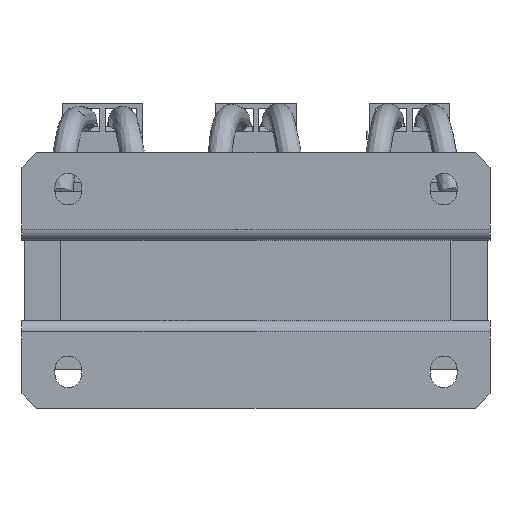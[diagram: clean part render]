
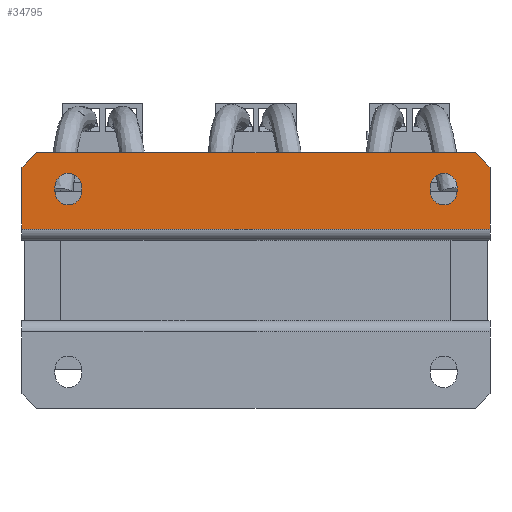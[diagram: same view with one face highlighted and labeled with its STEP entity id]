
A CAD part, front view. The second image highlights one B-rep face of the part: STEP entity #34795.
In plain terms, the highlighted planar face has unit normal (0, -1, 0).
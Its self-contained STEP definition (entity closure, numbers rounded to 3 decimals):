
#3847=LINE('',#59792,#7297);
#3848=LINE('',#59794,#7298);
#3849=LINE('',#59796,#7299);
#3850=LINE('',#59798,#7300);
#3851=LINE('',#59800,#7301);
#3852=LINE('',#59801,#7302);
#3853=LINE('',#59804,#7303);
#3854=LINE('',#59808,#7304);
#3855=LINE('',#59812,#7305);
#3856=LINE('',#59816,#7306);
#7297=VECTOR('',#46039,10.);
#7298=VECTOR('',#46040,10.);
#7299=VECTOR('',#46041,10.);
#7300=VECTOR('',#46042,10.);
#7301=VECTOR('',#46043,10.);
#7302=VECTOR('',#46044,10.);
#7303=VECTOR('',#46045,10.);
#7304=VECTOR('',#46048,10.);
#7305=VECTOR('',#46051,10.);
#7306=VECTOR('',#46054,10.);
#8843=PLANE('',#37463);
#9109=FACE_BOUND('',#12755,.T.);
#9110=FACE_BOUND('',#12756,.T.);
#10806=FACE_OUTER_BOUND('',#12754,.T.);
#12754=EDGE_LOOP('',(#30589,#30590,#30591,#30592,#30593,#30594));
#12755=EDGE_LOOP('',(#30595,#30596,#30597,#30598));
#12756=EDGE_LOOP('',(#30599,#30600,#30601,#30602));
#13736=CIRCLE('',#37464,2.75);
#13737=CIRCLE('',#37465,2.75);
#13738=CIRCLE('',#37466,2.75);
#13739=CIRCLE('',#37467,2.75);
#16772=VERTEX_POINT('',#59790);
#16773=VERTEX_POINT('',#59791);
#16774=VERTEX_POINT('',#59793);
#16775=VERTEX_POINT('',#59795);
#16776=VERTEX_POINT('',#59797);
#16777=VERTEX_POINT('',#59799);
#16778=VERTEX_POINT('',#59802);
#16779=VERTEX_POINT('',#59803);
#16780=VERTEX_POINT('',#59805);
#16781=VERTEX_POINT('',#59807);
#16782=VERTEX_POINT('',#59810);
#16783=VERTEX_POINT('',#59811);
#16784=VERTEX_POINT('',#59813);
#16785=VERTEX_POINT('',#59815);
#21427=EDGE_CURVE('',#16772,#16773,#3847,.T.);
#21428=EDGE_CURVE('',#16774,#16772,#3848,.T.);
#21429=EDGE_CURVE('',#16775,#16774,#3849,.T.);
#21430=EDGE_CURVE('',#16776,#16775,#3850,.T.);
#21431=EDGE_CURVE('',#16776,#16777,#3851,.T.);
#21432=EDGE_CURVE('',#16773,#16777,#3852,.T.);
#21433=EDGE_CURVE('',#16778,#16779,#3853,.T.);
#21434=EDGE_CURVE('',#16779,#16780,#13736,.T.);
#21435=EDGE_CURVE('',#16780,#16781,#3854,.T.);
#21436=EDGE_CURVE('',#16781,#16778,#13737,.T.);
#21437=EDGE_CURVE('',#16782,#16783,#3855,.T.);
#21438=EDGE_CURVE('',#16783,#16784,#13738,.T.);
#21439=EDGE_CURVE('',#16784,#16785,#3856,.T.);
#21440=EDGE_CURVE('',#16785,#16782,#13739,.T.);
#30589=ORIENTED_EDGE('',*,*,#21427,.F.);
#30590=ORIENTED_EDGE('',*,*,#21428,.F.);
#30591=ORIENTED_EDGE('',*,*,#21429,.F.);
#30592=ORIENTED_EDGE('',*,*,#21430,.F.);
#30593=ORIENTED_EDGE('',*,*,#21431,.T.);
#30594=ORIENTED_EDGE('',*,*,#21432,.F.);
#30595=ORIENTED_EDGE('',*,*,#21433,.T.);
#30596=ORIENTED_EDGE('',*,*,#21434,.T.);
#30597=ORIENTED_EDGE('',*,*,#21435,.T.);
#30598=ORIENTED_EDGE('',*,*,#21436,.T.);
#30599=ORIENTED_EDGE('',*,*,#21437,.T.);
#30600=ORIENTED_EDGE('',*,*,#21438,.T.);
#30601=ORIENTED_EDGE('',*,*,#21439,.T.);
#30602=ORIENTED_EDGE('',*,*,#21440,.T.);
#34795=ADVANCED_FACE('',(#10806,#9109,#9110),#8843,.F.);
#37463=AXIS2_PLACEMENT_3D('',#59789,#46037,#46038);
#37464=AXIS2_PLACEMENT_3D('',#59806,#46046,#46047);
#37465=AXIS2_PLACEMENT_3D('',#59809,#46049,#46050);
#37466=AXIS2_PLACEMENT_3D('',#59814,#46052,#46053);
#37467=AXIS2_PLACEMENT_3D('',#59817,#46055,#46056);
#46037=DIRECTION('center_axis',(0.,1.,0.));
#46038=DIRECTION('ref_axis',(1.,0.,0.));
#46039=DIRECTION('',(0.707,0.,-0.707));
#46040=DIRECTION('',(1.,0.,0.));
#46041=DIRECTION('',(0.707,0.,0.707));
#46042=DIRECTION('',(0.,0.,1.));
#46043=DIRECTION('',(1.,0.,0.));
#46044=DIRECTION('',(0.,0.,-1.));
#46045=DIRECTION('',(0.,0.,-1.));
#46046=DIRECTION('center_axis',(0.,1.,0.));
#46047=DIRECTION('ref_axis',(0.,0.,
1.));
#46048=DIRECTION('',(0.,0.,1.));
#46049=DIRECTION('center_axis',(0.,1.,0.));
#46050=DIRECTION('ref_axis',(1.,0.,0.));
#46051=DIRECTION('',(0.,0.,1.));
#46052=DIRECTION('center_axis',(0.,1.,0.));
#46053=DIRECTION('ref_axis',(0.,0.,
-1.));
#46054=DIRECTION('',(0.,0.,-1.));
#46055=DIRECTION('center_axis',(0.,1.,0.));
#46056=DIRECTION('ref_axis',(-1.,0.,0.));
#59789=CARTESIAN_POINT('Origin',(0.,-43.45,17.25));
#59790=CARTESIAN_POINT('',(45.,-43.45,26.25));
#59791=CARTESIAN_POINT('',(48.,-43.45,23.25));
#59792=CARTESIAN_POINT('',(36.75,-43.45,34.5));
#59793=CARTESIAN_POINT('',(-45.,-43.45,26.25));
#59794=CARTESIAN_POINT('',(-48.,-43.45,26.25));
#59795=CARTESIAN_POINT('',(-48.,-43.45,23.25));
#59796=CARTESIAN_POINT('',(-36.75,-43.45,34.5));
#59797=CARTESIAN_POINT('',(-48.,-43.45,10.55));
#59798=CARTESIAN_POINT('',(-48.,-43.45,8.25));
#59799=CARTESIAN_POINT('',(48.,-43.45,10.55));
#59800=CARTESIAN_POINT('',(24.,-43.45,10.55));
#59801=CARTESIAN_POINT('',(48.,-43.45,26.25));
#59802=CARTESIAN_POINT('',(-35.75,-43.45,19.25));
#59803=CARTESIAN_POINT('',(-35.75,-43.45,18.25));
#59804=CARTESIAN_POINT('',(-35.75,-43.45,17.75));
#59805=CARTESIAN_POINT('',(-41.25,-43.45,18.25));
#59806=CARTESIAN_POINT('Origin',(-38.5,-43.45,18.25));
#59807=CARTESIAN_POINT('',(-41.25,-43.45,19.25));
#59808=CARTESIAN_POINT('',(-41.25,-43.45,18.25));
#59809=CARTESIAN_POINT('Origin',(-38.5,-43.45,19.25));
#59810=CARTESIAN_POINT('',(35.75,-43.45,18.25));
#59811=CARTESIAN_POINT('',(35.75,-43.45,19.25));
#59812=CARTESIAN_POINT('',(35.75,-43.45,18.25));
#59813=CARTESIAN_POINT('',(41.25,-43.45,19.25));
#59814=CARTESIAN_POINT('Origin',(38.5,-43.45,19.25));
#59815=CARTESIAN_POINT('',(41.25,-43.45,18.25));
#59816=CARTESIAN_POINT('',(41.25,-43.45,17.75));
#59817=CARTESIAN_POINT('Origin',(38.5,-43.45,18.25));
